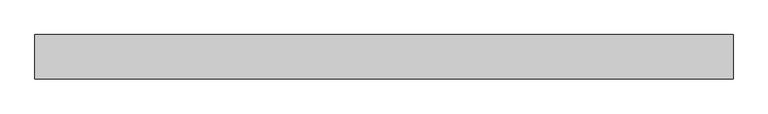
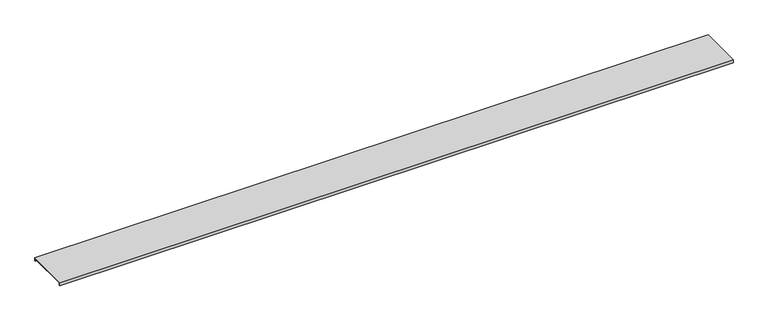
"""IFC4 building model written with IfcOpenShell, lengths in millimetres: cable carrier fitting geometry, ССT_Hyperline_FBTR-CVR-2000 Крышка для оптического лотка : Крышка для оптического лотка."""

import ifcopenshell
import ifcopenshell.guid

model = None  # the IFC model being written
_history = None  # IfcOwnerHistory: only IFC2X3 demands one
_inside = {}  # id of a spatial element -> (the spatial element, [elements in it])
_under = {}  # id of a project, library or spatial element -> (it, [spatial elements below it])
_declared = {}  # id of a project -> (the project, [libraries it declares])
_typed = {}  # id of a type object -> (the type object, [elements of that type])
_made_of = {}  # id of a material, layer set ... -> (it, [elements and type objects made of it])


def new_model(schema):
    """Start an empty IFC model of exactly this schema.

    Asked for "IFC4X3", IfcOpenShell would pick the latest addendum, in which some entities
    have other attributes; the version numbers below select the first issue.
    IFC2X3 requires an IfcOwnerHistory on every rooted entity: one is made here for all.
    """
    global model, _history
    if schema == "IFC4X3":
        model = ifcopenshell.file(schema_version=(4, 3, 0, 0))
    else:
        model = ifcopenshell.file(schema=schema)
    _inside.clear()
    _under.clear()
    _declared.clear()
    _typed.clear()
    _made_of.clear()
    _history = None
    if model.schema == "IFC2X3":
        org = make("IfcOrganization", Name="unknown")
        user = make(
            "IfcPersonAndOrganization",
            ThePerson=make("IfcPerson", FamilyName="unknown"),
            TheOrganization=org,
        )
        app = make(
            "IfcApplication",
            ApplicationDeveloper=org,
            Version="unknown",
            ApplicationFullName="unknown",
            ApplicationIdentifier="unknown",
        )
        _history = make(
            "IfcOwnerHistory",
            OwningUser=user,
            OwningApplication=app,
            ChangeAction="ADDED",
            CreationDate=0,
        )
    return model


def make(cls, **values):
    """One entity of the class cls with the attributes given. An attribute that is None is left unset."""
    return model.create_entity(
        cls, **{name: value for name, value in values.items() if value is not None}
    )


def rooted(cls, **values):
    """An entity with a GlobalId (a new one), such as an element, a storey or a relation."""
    return make(cls, GlobalId=ifcopenshell.guid.new(), OwnerHistory=_history, **values)


def si_unit(unit_type, name, prefix=None):
    """IfcSIUnit, for example si_unit("LENGTHUNIT", "METRE", prefix="MILLI")."""
    return make("IfcSIUnit", UnitType=unit_type, Prefix=prefix, Name=name)


def assignment(units):
    """IfcUnitAssignment: the units of a project."""
    return None if units is None else make("IfcUnitAssignment", Units=units)


def point(xyz):
    """IfcCartesianPoint."""
    return None if xyz is None else make("IfcCartesianPoint", Coordinates=xyz)


def direction(xyz):
    """IfcDirection."""
    return None if xyz is None else make("IfcDirection", DirectionRatios=xyz)


def frame(location, z_axis=None, x_axis=None):
    """IfcAxis2Placement3D, a coordinate frame: its origin and axes. An axis left out is left unset."""
    return make(
        "IfcAxis2Placement3D",
        Location=point(location),
        Axis=direction(z_axis),
        RefDirection=direction(x_axis),
    )


def origin():
    """The frame at (0, 0, 0) with its axes left unset."""
    return frame((0.0, 0.0, 0.0))


def place(relative_to, where):
    """IfcLocalPlacement: puts the frame where relative to a parent placement (None: the world)."""
    return make(
        "IfcLocalPlacement", PlacementRelTo=relative_to, RelativePlacement=where
    )


def context(
    kind, dimensions, precision=None, world=None, true_north=None, identifier=None
):
    """IfcGeometricRepresentationContext, for example the 3D "Model" context."""
    return make(
        "IfcGeometricRepresentationContext",
        ContextIdentifier=identifier,
        ContextType=kind,
        CoordinateSpaceDimension=dimensions,
        Precision=precision,
        WorldCoordinateSystem=world,
        TrueNorth=true_north,
    )


def project(units=None, contexts=None):
    """IfcProject with its units and contexts."""
    return rooted(
        "IfcProject",
        Name="project",
        RepresentationContexts=contexts,
        UnitsInContext=assignment(units),
    )


def spatial(cls, under=None, at=None, **own):
    """A site, building, storey or space (cls), placed at a placement, below another one or the project."""
    s = rooted(cls, ObjectPlacement=at, **own)
    if under is not None:
        _under.setdefault(under.id(), (under, []))[1].append(s)
    return s


def polyline(points):
    """IfcPolyline through the points."""
    return make("IfcPolyline", Points=[point(p) for p in points])


def outline(outer, holes=None, kind="AREA"):
    """IfcArbitraryClosedProfileDef: a profile drawn as a closed curve; with holes, ...WithVoids."""
    if holes is None:
        return make("IfcArbitraryClosedProfileDef", ProfileType=kind, OuterCurve=outer)
    return make(
        "IfcArbitraryProfileDefWithVoids",
        ProfileType=kind,
        OuterCurve=outer,
        InnerCurves=holes,
    )


def extrude(swept, where, along, depth):
    """IfcExtrudedAreaSolid: the profile swept, set in the frame where, extruded along a direction by depth."""
    return make(
        "IfcExtrudedAreaSolid",
        SweptArea=swept,
        Position=where,
        ExtrudedDirection=direction(along),
        Depth=depth,
    )


def shape(context_of_items, identifier, shape_type, items):
    """IfcShapeRepresentation: the items that make up one representation, for example the "Body"."""
    return make(
        "IfcShapeRepresentation",
        ContextOfItems=context_of_items,
        RepresentationIdentifier=identifier,
        RepresentationType=shape_type,
        Items=items,
    )


def source(mapping_origin, context_of_items, identifier, shape_type, items):
    """IfcRepresentationMap: a shape defined once, which mapped items show again and again."""
    return make(
        "IfcRepresentationMap",
        MappingOrigin=mapping_origin,
        MappedRepresentation=shape(context_of_items, identifier, shape_type, items),
    )


def transform(
    local_origin,
    x_axis=None,
    y_axis=None,
    z_axis=None,
    scale=None,
    scale2=None,
    scale3=None,
    uniform=True,
):
    """IfcCartesianTransformationOperator3D, or its non-uniform kind. x_axis, y_axis, z_axis: its Axis1, 2, 3."""
    if uniform:
        return make(
            "IfcCartesianTransformationOperator3D",
            Axis1=direction(x_axis),
            Axis2=direction(y_axis),
            LocalOrigin=point(local_origin),
            Scale=scale,
            Axis3=direction(z_axis),
        )
    return make(
        "IfcCartesianTransformationOperator3DnonUniform",
        Axis1=direction(x_axis),
        Axis2=direction(y_axis),
        LocalOrigin=point(local_origin),
        Scale=scale,
        Axis3=direction(z_axis),
        Scale2=scale2,
        Scale3=scale3,
    )


def mapped(mapping_source, mapping_target):
    """IfcMappedItem: shows the shape of a source again, moved by a transform."""
    return make(
        "IfcMappedItem", MappingSource=mapping_source, MappingTarget=mapping_target
    )


def made_of(thing, what):
    """Note that an element or type object is made of a material, layer set ...; save() writes the relation."""
    if what is not None:
        _made_of.setdefault(what.id(), (what, []))[1].append(thing)
    return thing


def element(
    cls,
    number,
    at=None,
    inside=None,
    cuts=None,
    type_object=None,
    material=None,
    context=None,
    identifier="Body",
    shape_type=None,
    held_by="IfcProductDefinitionShape",
    body=None,
    shapes=None,
    **own,
):
    """One element of the class cls, such as IfcWall. Its Tag is "e" and its number.

    at: its placement. inside: the storey or other place that contains it. cuts: it is an
    opening in that element (IfcRelVoidsElement). A single representation is given by context,
    identifier, shape_type and body (its items); several are given by shapes. held_by: the class
    of the entity that holds the representations. save() writes the other relations.
    """
    e = rooted(cls, Tag="e%d" % number, ObjectPlacement=at, **own)
    if body is not None:
        shapes = [shape(context, identifier, shape_type, body)]
    if shapes is not None:
        e.Representation = make(held_by, Representations=shapes)
    if inside is not None:
        _inside.setdefault(inside.id(), (inside, []))[1].append(e)
    if cuts is not None:
        rooted(
            "IfcRelVoidsElement", RelatingBuildingElement=cuts, RelatedOpeningElement=e
        )
    if type_object is not None:
        _typed.setdefault(type_object.id(), (type_object, []))[1].append(e)
    return made_of(e, material)


def aggregate(whole, parts):
    """IfcRelAggregates: a whole, such as a stair, and the parts it consists of."""
    return rooted("IfcRelAggregates", RelatingObject=whole, RelatedObjects=parts)


def save(model, path):
    """Write the relations noted so far, then the file.

    IfcRelAggregates (storeys below a building ...), IfcRelContainedInSpatialStructure (elements
    in a storey), IfcRelDefinesByType, IfcRelAssociatesMaterial and IfcRelDeclares: one each for
    every whole, place, type object, material and project.
    """
    for whole, parts in _under.values():
        aggregate(whole, parts)
    for where, things in _inside.values():
        rooted(
            "IfcRelContainedInSpatialStructure",
            RelatedElements=things,
            RelatingStructure=where,
        )
    for kind, things in _typed.values():
        rooted("IfcRelDefinesByType", RelatedObjects=things, RelatingType=kind)
    for what, things in _made_of.values():
        rooted("IfcRelAssociatesMaterial", RelatedObjects=things, RelatingMaterial=what)
    for by, libraries in _declared.values():
        rooted("IfcRelDeclares", RelatingContext=by, RelatedDefinitions=libraries)
    model.write(path)


def cable_carrier_fitting_df0aac7b(model_context):
    return source(origin(), model_context, "Body", "SweptSolid", [
        extrude(outline(polyline([(60.0, 50.0), (-60.0, 50.0), (-60.0, 43.0), (-62.54, 43.0), (-62.54, 52.54), (62.54, 52.54), (62.54, 43.0), (60.0, 43.0), (60.0, 50.0)])), frame((-1780.0, 0.0, 0.0), z_axis=(1.0, 0.0, 0.0), x_axis=(0.0, 1.0, 0.0)), (0.0, 0.0, 1.0), 1960.0),
    ])


if __name__ == "__main__":
    model = new_model("IFC4")
    model_context = context("Model", 3, world=origin())
    ifc_project = project(units=[si_unit("LENGTHUNIT", "METRE", prefix="MILLI")], contexts=[model_context])
    site = spatial("IfcSite", under=ifc_project)
    building = spatial("IfcBuilding", under=site)
    placement = place(None, origin())
    cable_carrier_fitting_shape = cable_carrier_fitting_df0aac7b(model_context)
    element("IfcCableCarrierFitting", 1, ObjectType="ССT_Hyperline_FBTR-CVR-2000 Крышка для оптического лотка : Крышка для оптического лотка", at=placement, inside=building, context=model_context, shape_type="MappedRepresentation", body=[
        mapped(cable_carrier_fitting_shape, transform((0.0, 0.0, 0.0), x_axis=(1.0, 0.0, 0.0), y_axis=(0.0, 1.0, 0.0), z_axis=(0.0, 0.0, 1.0))),
    ])
    save(model, "model.ifc")
